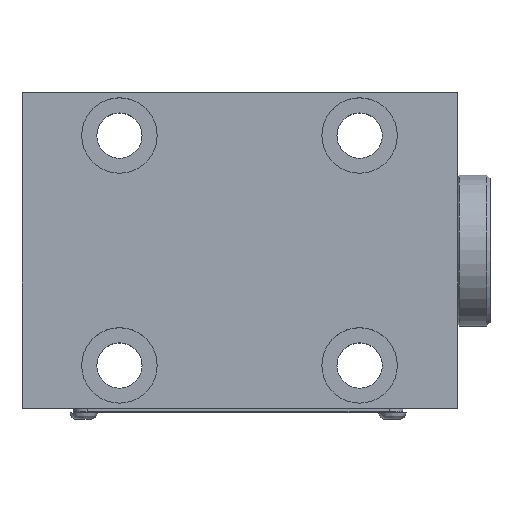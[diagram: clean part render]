
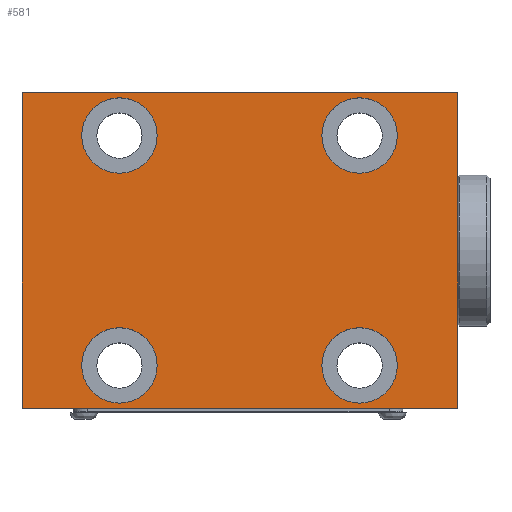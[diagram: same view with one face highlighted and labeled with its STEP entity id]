
A CAD part, top view. The second image highlights one B-rep face of the part: STEP entity #581.
In plain terms, the highlighted planar face has unit normal (0, 0, 1).
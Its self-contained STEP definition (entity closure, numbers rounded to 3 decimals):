
#172=LINE('',#3248,#272);
#173=LINE('',#3251,#273);
#174=LINE('',#3253,#274);
#175=LINE('',#3255,#275);
#272=VECTOR('',#2603,1.);
#273=VECTOR('',#2604,1.);
#274=VECTOR('',#2605,1.);
#275=VECTOR('',#2606,1.);
#581=ADVANCED_FACE('',(#801,#802,#803,#804,#805),#700,.T.);
#700=PLANE('',#2256);
#801=FACE_BOUND('',#989,.T.);
#802=FACE_BOUND('',#990,.T.);
#803=FACE_BOUND('',#991,.T.);
#804=FACE_BOUND('',#992,.T.);
#805=FACE_BOUND('',#993,.T.);
#989=EDGE_LOOP('',(#1305));
#990=EDGE_LOOP('',(#1306));
#991=EDGE_LOOP('',(#1307,#1308,#1309,#1310));
#992=EDGE_LOOP('',(#1311));
#993=EDGE_LOOP('',(#1312));
#1305=ORIENTED_EDGE('',*,*,#1907,.T.);
#1306=ORIENTED_EDGE('',*,*,#1908,.T.);
#1307=ORIENTED_EDGE('',*,*,#1909,.F.);
#1308=ORIENTED_EDGE('',*,*,#1910,.F.);
#1309=ORIENTED_EDGE('',*,*,#1911,.F.);
#1310=ORIENTED_EDGE('',*,*,#1912,.F.);
#1311=ORIENTED_EDGE('',*,*,#1913,.T.);
#1312=ORIENTED_EDGE('',*,*,#1914,.T.);
#1698=VERTEX_POINT('',#3245);
#1699=VERTEX_POINT('',#3247);
#1700=VERTEX_POINT('',#3249);
#1701=VERTEX_POINT('',#3250);
#1702=VERTEX_POINT('',#3252);
#1703=VERTEX_POINT('',#3254);
#1704=VERTEX_POINT('',#3257);
#1705=VERTEX_POINT('',#3259);
#1907=EDGE_CURVE('',#1698,#1698,#2105,.T.);
#1908=EDGE_CURVE('',#1699,#1699,#2106,.T.);
#1909=EDGE_CURVE('',#1700,#1701,#172,.T.);
#1910=EDGE_CURVE('',#1702,#1700,#173,.T.);
#1911=EDGE_CURVE('',#1703,#1702,#174,.T.);
#1912=EDGE_CURVE('',#1701,#1703,#175,.T.);
#1913=EDGE_CURVE('',#1704,#1704,#2107,.T.);
#1914=EDGE_CURVE('',#1705,#1705,#2108,.T.);
#2105=CIRCLE('',#2252,5.5);
#2106=CIRCLE('',#2253,5.5);
#2107=CIRCLE('',#2254,5.5);
#2108=CIRCLE('',#2255,5.5);
#2252=AXIS2_PLACEMENT_3D('',#3244,#2599,#2600);
#2253=AXIS2_PLACEMENT_3D('',#3246,#2601,#2602);
#2254=AXIS2_PLACEMENT_3D('',#3256,#2607,#2608);
#2255=AXIS2_PLACEMENT_3D('',#3258,#2609,#2610);
#2256=AXIS2_PLACEMENT_3D('',#3260,#2611,#2612);
#2599=DIRECTION('',(0.,0.,-1.));
#2600=DIRECTION('',(1.,0.,0.));
#2601=DIRECTION('',(0.,0.,-1.));
#2602=DIRECTION('',(1.,0.,0.));
#2603=DIRECTION('',(-1.,0.,0.));
#2604=DIRECTION('',(0.,-1.,0.));
#2605=DIRECTION('',(1.,0.,0.));
#2606=DIRECTION('',(0.,1.,0.));
#2607=DIRECTION('',(0.,0.,-1.));
#2608=DIRECTION('',(1.,0.,0.));
#2609=DIRECTION('',(0.,0.,-1.));
#2610=DIRECTION('',(1.,0.,0.));
#2611=DIRECTION('',(0.,0.,1.));
#2612=DIRECTION('',(-1.,0.,0.));
#3244=CARTESIAN_POINT('',(-23.401,19.653,24.5));
#3245=CARTESIAN_POINT('',(-17.901,19.653,24.5));
#3246=CARTESIAN_POINT('',(-58.401,53.153,24.5));
#3247=CARTESIAN_POINT('',(-52.901,53.153,24.5));
#3248=CARTESIAN_POINT('',(-9.101,13.403,24.5));
#3249=CARTESIAN_POINT('',(-9.101,13.403,24.5));
#3250=CARTESIAN_POINT('',(-72.601,13.403,24.5));
#3251=CARTESIAN_POINT('',(-9.101,59.403,24.5));
#3252=CARTESIAN_POINT('',(-9.101,59.403,24.5));
#3253=CARTESIAN_POINT('',(-72.601,59.403,24.5));
#3254=CARTESIAN_POINT('',(-72.601,59.403,24.5));
#3255=CARTESIAN_POINT('',(-72.601,13.403,24.5));
#3256=CARTESIAN_POINT('',(-58.401,19.653,24.5));
#3257=CARTESIAN_POINT('',(-52.901,19.653,24.5));
#3258=CARTESIAN_POINT('',(-23.401,53.153,24.5));
#3259=CARTESIAN_POINT('',(-17.901,53.153,24.5));
#3260=CARTESIAN_POINT('',(-23.401,53.153,24.5));
